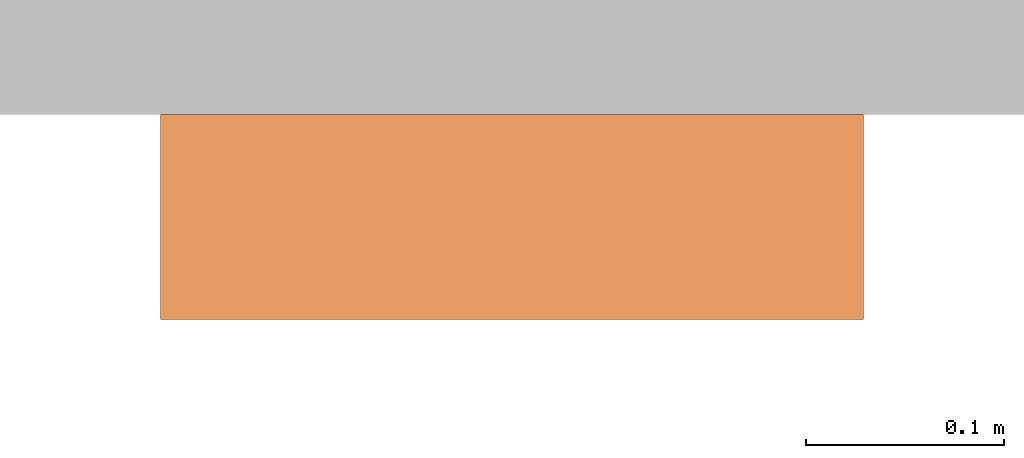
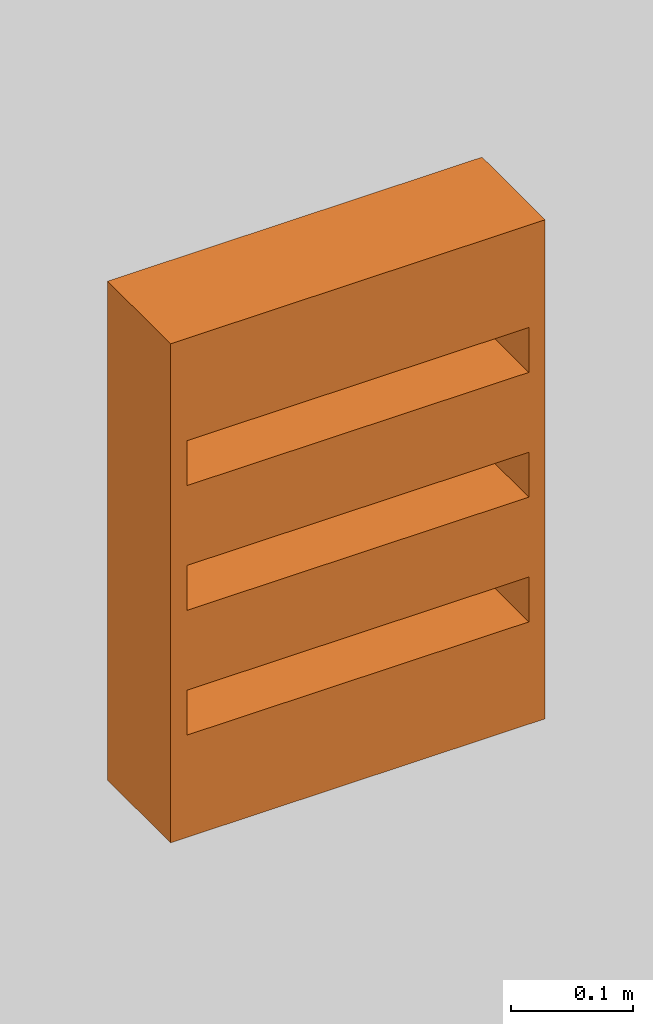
# One storey, part 92 of 197: 1 proxy.
"""IFC2X3 building model written with IfcOpenShell, lengths in metres."""

from ifc_helpers import new_model, entity, si_unit, converted_unit, direction, frame, origin, place, context, subcontext, project, spatial, faceted_brep, source, transform, mapped, material, type_object, type_shapes, element, save


model = new_model("IFC2X3")

# Units and contexts
model_context = context("Model", 3, precision=1e-05, world=origin(), true_north=direction((6.123031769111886e-17, 1.0)))
body_context = subcontext(model_context, "Body", "Model", "MODEL_VIEW")
ifc_project = project(units=[si_unit("LENGTHUNIT", "METRE"), converted_unit("PLANEANGLEUNIT", "DEGREE", entity("IfcPlaneAngleMeasure", 0.017453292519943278), si_unit("PLANEANGLEUNIT", "RADIAN"), dimensions=[0, 0, 0, 0, 0, 0, 0]), si_unit("AREAUNIT", "SQUARE_METRE")], contexts=[model_context])

# Site, building, storey
site_placement = place(None, origin())
site = spatial("IfcSite", under=ifc_project, at=site_placement, Name="Default", CompositionType="ELEMENT")
building_placement = place(site_placement, origin())
building = spatial("IfcBuilding", under=site, at=building_placement, CompositionType="ELEMENT")
storey_placement = place(building_placement, origin())
storey = spatial("IfcBuildingStorey", under=building, at=storey_placement, Name="Niveau 0", CompositionType="ELEMENT", Elevation=0.0)

# Proxy
ifc_material = material(Name="BETCE-TABLEAU-BLANC")
building_element_proxy_type = type_object("IfcBuildingElementProxyType", Name="Coffret mural 18 modules:54M-3R", PredefinedType="NOTDEFINED", material=ifc_material)
shared_shape = source(origin(), body_context, "Body", "Brep", [
    faceted_brep([(0.17750000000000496, -0.1034999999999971, 0.4999999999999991), (-0.17749999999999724, -0.1034999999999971, 0.4999999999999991), (-0.1775, -0.1034999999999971, 0.0), (0.17750000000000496, -0.1034999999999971, 0.0), (-0.1619999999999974, -0.1034999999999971, 0.1475000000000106), (0.1620000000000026, -0.1034999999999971, 0.1475000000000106), (0.1620000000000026, -0.1034999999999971, 0.10250000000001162), (-0.16199999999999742, -0.1034999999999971, 0.10250000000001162), (-0.1619999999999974, -0.1034999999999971, 0.39750000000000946), (0.1620000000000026, -0.1034999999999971, 0.39750000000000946), (0.1620000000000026, -0.1034999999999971, 0.3525000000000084), (-0.16199999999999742, -0.1034999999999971, 0.3525000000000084), (-0.1619999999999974, -0.1034999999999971, 0.2725000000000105), (0.1620000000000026, -0.1034999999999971, 0.2725000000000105), (0.1620000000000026, -0.1034999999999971, 0.22750000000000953), (-0.16199999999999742, -0.1034999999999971, 0.22750000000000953), (0.17750000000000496, 0.0, 0.4999999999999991), (0.17750000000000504, 0.0, 0.0), (-0.1775, 0.0, 0.0), (-0.17749999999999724, 0.0, 0.4999999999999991), (0.16200000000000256, -0.01, 0.1475000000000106), (-0.16199999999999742, -0.01, 0.1475000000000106), (-0.16199999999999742, -0.01, 0.10250000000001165), (0.16200000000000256, -0.01, 0.10250000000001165), (0.16200000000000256, -0.01, 0.39750000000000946), (-0.16199999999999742, -0.01, 0.39750000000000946), (-0.16199999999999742, -0.01, 0.3525000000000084), (0.16200000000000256, -0.01, 0.3525000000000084), (-0.16199999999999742, -0.01, 0.2725000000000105), (0.16200000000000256, -0.009999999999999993, 0.2725000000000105), (-0.16199999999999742, -0.01, 0.22750000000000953), (0.16200000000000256, -0.01, 0.22750000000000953)], [[[0, 1, 2, 3], [4, 5, 6, 7], [8, 9, 10, 11], [12, 13, 14, 15]], [[16, 17, 18, 19]], [[1, 0, 16, 19]], [[2, 1, 19, 18]], [[3, 2, 18, 17]], [[0, 3, 17, 16]], [[20, 21, 22, 23]], [[21, 20, 5, 4]], [[22, 21, 4, 7]], [[23, 22, 7, 6]], [[20, 23, 6, 5]], [[24, 25, 26, 27]], [[25, 24, 9, 8]], [[26, 25, 8, 11]], [[27, 26, 11, 10]], [[24, 27, 10, 9]], [[28, 29, 13, 12]], [[30, 28, 12, 15]], [[31, 30, 15, 14]], [[29, 31, 14, 13]], [[29, 28, 30, 31]]]),
])
type_shapes(building_element_proxy_type, [shared_shape])
proxy_placement = place(storey_placement, frame((-533.6963416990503, -51.152644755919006, 1.0)))
element("IfcBuildingElementProxy", 1, at=proxy_placement, inside=storey, type_object=building_element_proxy_type, material=ifc_material, Name="Coffret mural 18 modules:54M-3R", ObjectType="Coffret mural 18 modules:54M-3R", context=body_context, shape_type="MappedRepresentation", body=[
    mapped(shared_shape, transform((0.0, 0.0, 0.0), scale=1.0)),
])

save(model, "model.ifc")
